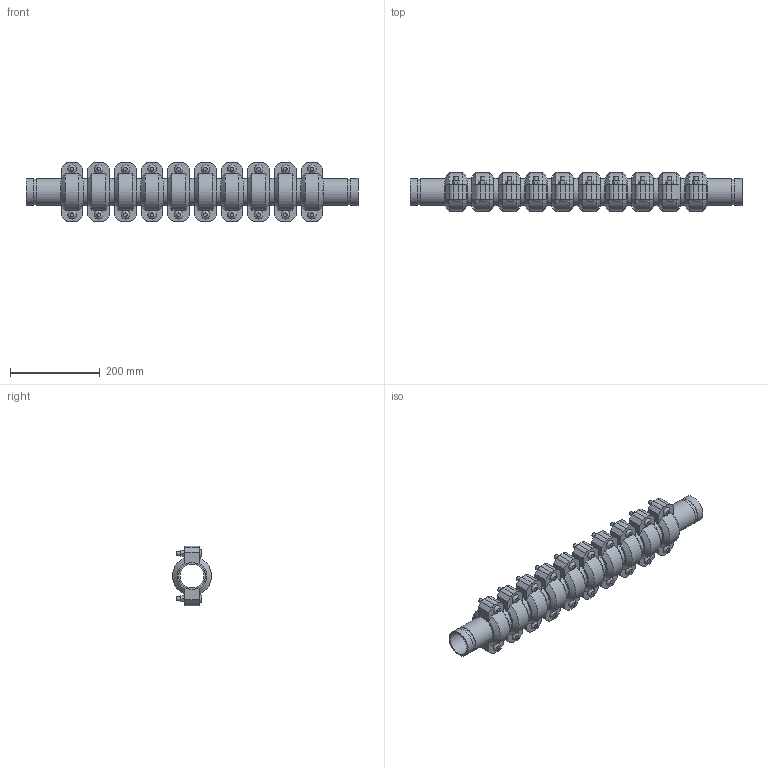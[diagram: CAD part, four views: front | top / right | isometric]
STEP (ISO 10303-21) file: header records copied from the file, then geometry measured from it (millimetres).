
FILE_DESCRIPTION(/* description */ ('VIC SS EXPANSION JOINT 10 COUPLINGS NEUTRAL STYLE 155P (OGS) (POTABLE WATER) ','CAx-IF Rec.Pracs.---Representation and Presentation of Product Manufacturing Information (PMI)---4.0---2014-10-13'),/* implementation_level */ '2;1');
FILE_NAME(/* name */ 'C:\Users\kkamble\AppData\Roaming\Autodesk\ApplicationPlugins\Victaulic.Temp\A116\Victaulic_SS_Expansion Joint_Neutral_10 Couplings_Style 155P (OGS)-Potable Water_10 Coup_Neut_2 (50).stp',/* time_stamp */ '2021-07-16T16:26:59+06:00',/* author */ ('kkamble'),/* organization */ ('Victaulic'),/* preprocessor_version */ 'ST-DEVELOPER v17.2',/* originating_system */ 'Autodesk Inventor 2019',/* authorisation */ '');
FILE_SCHEMA (('AP242_MANAGED_MODEL_BASED_3D_ENGINEERING_MIM_LF { 1 0 10303 442 1 1 4 }'));
Length unit declared in the file: inch
Products named in the file (4): 155P-02.0; Nipple-02.0; Nipple-02.0_1; 075-02.0
Assembly tree (21 placements, depth 2):
  155P-02.0
    Nipple-02.0  x2
    Nipple-02.0_1  x9
    075-02.0  x10
Bounding box: 741.43 x 87.12 x 132.59 mm (x, y, z)
Volume: 2454771.1 mm3; surface area: 679066.4 mm2
Topology: 21 solids, 41 shells, 702 faces, 1660 edges, 1164 vertices
Faces by surface type: plane 426, cylinder 216, cone 40, bspline 20
Full cylindrical faces by diameter (mm): 9.525 x40, 11.43 x20, 52.502 x11, 53.975 x10, 57.15 x22, 60.325 x53
Entity records: 2881 total; most frequent: CARTESIAN_POINT 505, DIRECTION 485, ORIENTED_EDGE 386, AXIS2_PLACEMENT_3D 196, EDGE_CURVE 193, VERTEX_POINT 138, EDGE_LOOP 107, LINE 93
